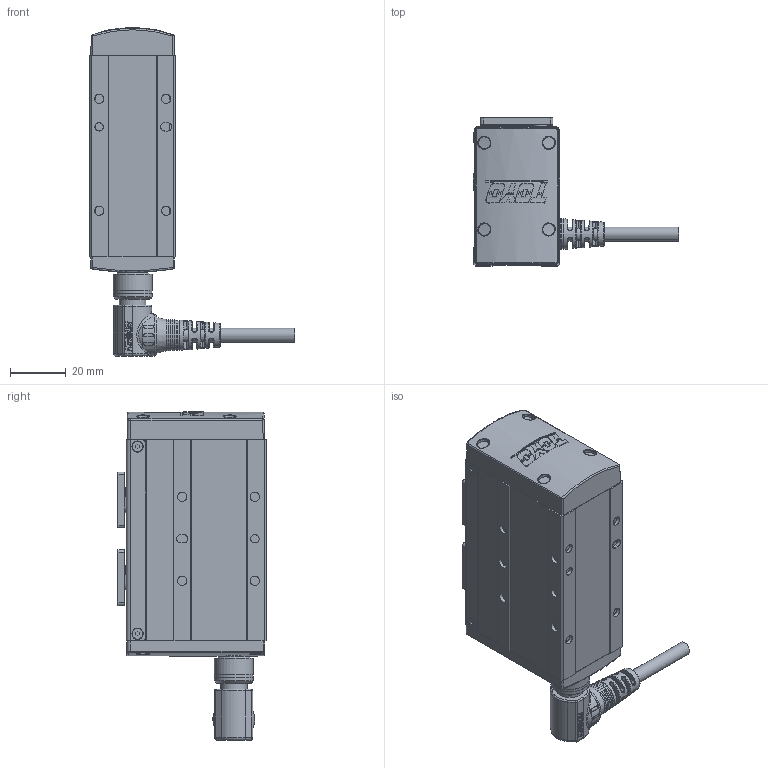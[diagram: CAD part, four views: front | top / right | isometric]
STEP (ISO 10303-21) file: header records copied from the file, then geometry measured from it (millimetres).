
FILE_DESCRIPTION(/* description */ ('STEP AP214'),/* implementation_level */ '2;1');
FILE_NAME(/* name */ 'D:\2025.02.25 帶電匯整給泊舟\3. CHS2系列\CHS2B-S20-WR.stp',/* time_stamp */ '2025-02-25T17:34:30+08:00',/* author */ ('T10033'),/* organization */ (''),/* preprocessor_version */ 'ST-DEVELOPER v18.1',/* originating_system */ 'Autodesk Inventor 2020',/* authorisation */ '');
FILE_SCHEMA (('CONFIG_CONTROL_DESIGN'));
Products named in the file (8): CHS2B-S20; 22012-000289_M2L6內六角; 12004-000153-02; 22013-000052_徑3L5定位銷; 22012-001387_M2.5L6內六角; 慶陞M12金屬頭; T34WTYWS34T_Shrinkwrap_1; M12-14PIN 線端90度接頭-05中繼線
Assembly tree (15 placements, depth 2):
  CHS2B-S20
    22012-000289_M2L6內六角  x2
    12004-000153-02  x2
    22013-000052_徑3L5定位銷  x4
    22012-001387_M2.5L6內六角  x4
    慶陞M12金屬頭
    T34WTYWS34T_Shrinkwrap_1
    M12-14PIN 線端90度接頭-05中繼線
Bounding box: 73.5 x 53 x 117.52 mm (x, y, z)
Volume: 130460.4 mm3; surface area: 30680.3 mm2
Topology: 29 solids, 34 shells, 2248 faces, 6217 edges, 4167 vertices
Faces by surface type: plane 1099, cylinder 482, cone 414, bspline 157, torus 92, sphere 4
Full cylindrical faces by diameter (mm): 0.6 x14, 0.65 x14, 1 x14, 2 x30, 2.5 x52, 2.6 x4, 3 x11, 3.3 x12, 3.8 x6, 4.5 x4, 4.8 x4, 5 x1, 8 x1, 8.9 x1, 9.5 x2, 9.6 x1, 10.5 x2, 10.9 x1, 11 x2, 11.2 x1, 11.25 x1, 12 x1, 13 x1, 13.8 x1, 14 x2, 14.4 x1, 16.482 x1
Entity records: 94384 total; most frequent: CARTESIAN_POINT 41793, ORIENTED_EDGE 10706, DIRECTION 10558, EDGE_CURVE 5371, AXIS2_PLACEMENT_3D 3961, VERTEX_POINT 3590, LINE 2636, VECTOR 2636
